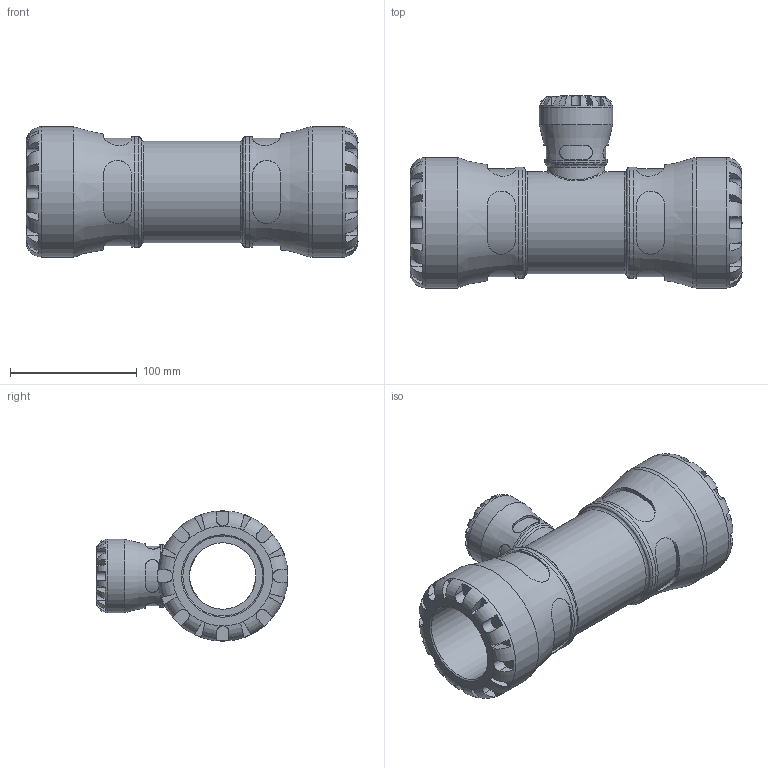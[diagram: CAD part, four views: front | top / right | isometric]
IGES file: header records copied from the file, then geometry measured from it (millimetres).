
Global section: file name: 103400063032_193400063032.ipt; native system: Autodesk Inventor 2015; preprocessor: unknown; author: KIM; date: 20170122.114110; units: millimetre
Bounding box: 262 x 151.5 x 103 mm (x, y, z)
Volume: 1029210.7 mm3; surface area: 161578.4 mm2
Topology: 1 solids, 1 shells, 287 faces, 749 edges, 477 vertices
Faces by surface type: plane 174, revolution 68, cylinder 44, bspline 1
Full cylindrical faces by diameter (mm): 45.24 x1, 49.3 x1, 58 x1, 80.34 x1, 87.55 x2, 103 x2
